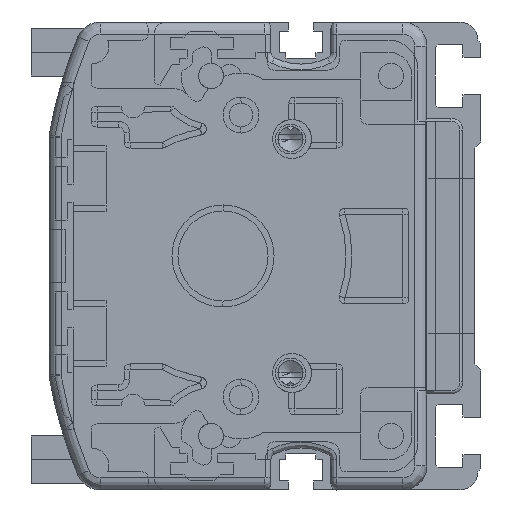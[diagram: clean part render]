
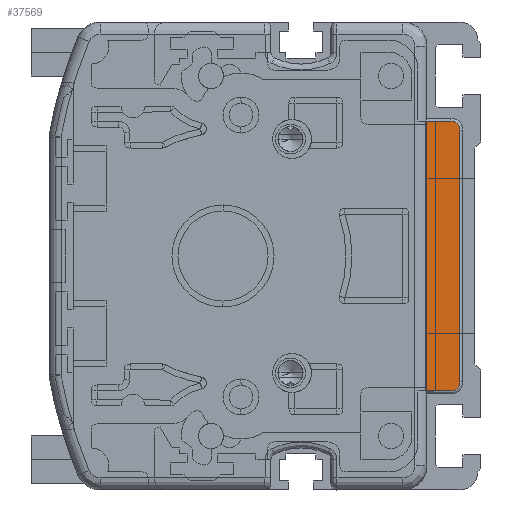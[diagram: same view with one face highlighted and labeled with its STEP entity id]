
A CAD part, left-side view. The second image highlights one B-rep face of the part: STEP entity #37569.
In plain terms, the highlighted planar face has unit normal (-1, 0, 0).
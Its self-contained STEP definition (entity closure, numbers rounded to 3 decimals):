
#32140=DIRECTION('',(0.,0.,-1.));
#32141=VECTOR('',#32140,45.);
#32142=CARTESIAN_POINT('',(-2.,10.268,22.5));
#32143=LINE('',#32142,#32141);
#32175=CARTESIAN_POINT('',(-2.,6.,21.));
#32176=DIRECTION('',(1.,0.,0.));
#32177=DIRECTION('',(0.,0.,1.));
#32178=AXIS2_PLACEMENT_3D('',#32175,#32176,#32177);
#32180=CARTESIAN_POINT('',(-2.,6.,-21.));
#32181=DIRECTION('',(1.,0.,0.));
#32182=DIRECTION('',(0.,-1.,0.));
#32183=AXIS2_PLACEMENT_3D('',#32180,#32181,#32182);
#32189=DIRECTION('',(0.,-1.,0.));
#32190=VECTOR('',#32189,4.268);
#32191=CARTESIAN_POINT('',(-2.,10.268,-22.5));
#32192=LINE('',#32191,#32190);
#32709=DIRECTION('',(0.,0.,1.));
#32710=VECTOR('',#32709,42.);
#32711=CARTESIAN_POINT('',(-2.,4.5,-21.));
#32712=LINE('',#32711,#32710);
#32732=DIRECTION('',(0.,1.,0.));
#32733=VECTOR('',#32732,4.268);
#32734=CARTESIAN_POINT('',(-2.,6.,22.5));
#32735=LINE('',#32734,#32733);
#36016=CARTESIAN_POINT('',(-2.,10.268,22.5));
#36017=CARTESIAN_POINT('',(-2.,10.268,-22.5));
#36018=VERTEX_POINT('',#36016);
#36019=VERTEX_POINT('',#36017);
#36029=CARTESIAN_POINT('',(-2.,6.,-22.5));
#36030=VERTEX_POINT('',#36029);
#36031=CARTESIAN_POINT('',(-2.,4.5,-21.));
#36032=VERTEX_POINT('',#36031);
#36033=CARTESIAN_POINT('',(-2.,4.5,21.));
#36034=VERTEX_POINT('',#36033);
#36035=CARTESIAN_POINT('',(-2.,6.,
22.5));
#36036=VERTEX_POINT('',#36035);
#37551=CARTESIAN_POINT('',(-2.,7.384,0.));
#37552=DIRECTION('',(1.,0.,0.));
#37553=DIRECTION('',(0.,0.,-1.));
#37554=AXIS2_PLACEMENT_3D('',#37551,#37552,#37553);
#37555=PLANE('',#37554);
#37557=ORIENTED_EDGE('',*,*,#37556,.F.);
#37558=ORIENTED_EDGE('',*,*,#37530,.F.);
#37560=ORIENTED_EDGE('',*,*,#37559,.F.);
#37562=ORIENTED_EDGE('',*,*,#37561,.T.);
#37564=ORIENTED_EDGE('',*,*,#37563,.F.);
#37566=ORIENTED_EDGE('',*,*,#37565,.T.);
#37567=EDGE_LOOP('',(#37557,#37558,#37560,#37562,#37564,#37566));
#37568=FACE_OUTER_BOUND('',#37567,.F.);
#37569=ADVANCED_FACE('',(#37568),#37555,.F.);
#32179=CIRCLE('',#32178,1.5);
#32184=CIRCLE('',#32183,1.5);
#37530=EDGE_CURVE('',#36018,#36019,#32143,.T.);
#37556=EDGE_CURVE('',#36019,#36030,#32192,.T.);
#37559=EDGE_CURVE('',#36036,#36018,#32735,.T.);
#37561=EDGE_CURVE('',#36036,#36034,#32179,.T.);
#37563=EDGE_CURVE('',#36032,#36034,#32712,.T.);
#37565=EDGE_CURVE('',#36032,#36030,#32184,.T.);
